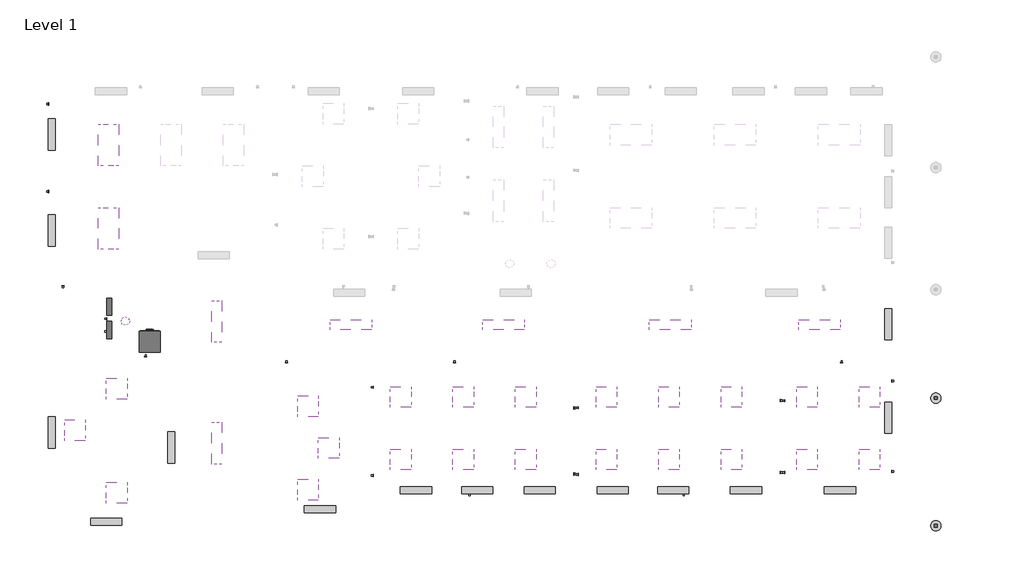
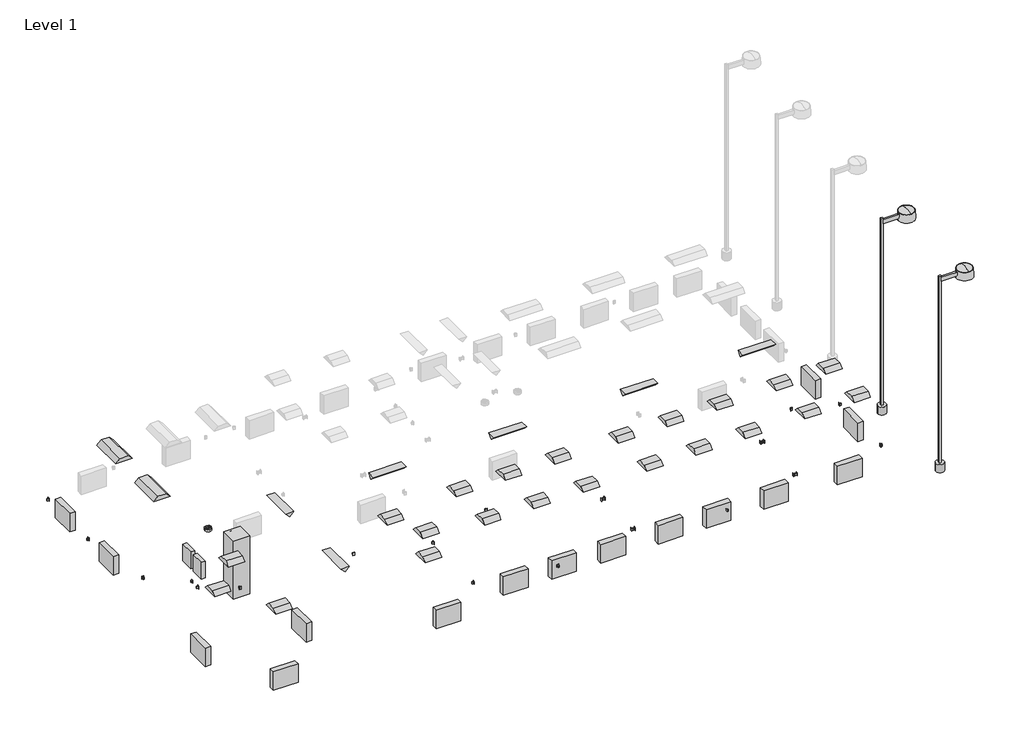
# One storey, part 1 of 2: 41 proxies, 33 light fixtures.
"""IFC4 building model written with IfcOpenShell, lengths in millimetres."""

from ifc_helpers import new_model, si_unit, origin, place, context, project, spatial, transform, mapped, element, save
from components import duplex_receptacle_standard_10251bba, heater_standard_f97a0de0, lighting_and_appliance_panelboard_480v_mlo_125_a_3907a416, proxy_f2fcea41, ceiling_light_flat_round_60w_277v_a3c1fe64, plain_recessed_lighting_fixture_1x4_277_73690371, plain_recessed_lighting_fixture_2x2_277_2107ce2d, plain_recessed_lighting_fixture_2x4_277_d3d5fc87, street_light_standard_400w_halogen_277v_63d2c179

model = new_model("IFC4")

# Units and contexts
model_context = context("Model", 3, world=origin())
ifc_project = project(units=[si_unit("LENGTHUNIT", "METRE", prefix="MILLI")], contexts=[model_context])

# Site, building, storey
site = spatial("IfcSite", under=ifc_project)
building = spatial("IfcBuilding", under=site)
storey = spatial("IfcBuildingStorey", under=building, Name="Level 1", Elevation=0.0)

# Proxies
placement = place(None, origin())
duplex_receptacle_standard_shape = duplex_receptacle_standard_10251bba(model_context)
element("IfcBuildingElementProxy", 1, Name="Duplex Receptacle : Standard", ObjectType="Duplex Receptacle : Standard", at=placement, inside=storey, context=model_context, shape_type="MappedRepresentation", body=[
    mapped(duplex_receptacle_standard_shape, transform((-11896.9375423, 539.3362982, 457.2), x_axis=(-1.0, 0.0, 0.0), y_axis=(0.0, 0.0, 1.0), z_axis=(0.0, 1.0, 0.0))),
])
element("IfcBuildingElementProxy", 2, Name="Duplex Receptacle : Standard", ObjectType="Duplex Receptacle : Standard", at=placement, inside=storey, context=model_context, shape_type="MappedRepresentation", body=[
    mapped(duplex_receptacle_standard_shape, transform((-12326.8965226, 3293.728876, 457.2), x_axis=(0.0, 1.0, 0.0), y_axis=(0.0, 0.0, 1.0), z_axis=(1.0, 0.0, 0.0))),
])
element("IfcBuildingElementProxy", 3, Name="Duplex Receptacle : Standard", ObjectType="Duplex Receptacle : Standard", at=placement, inside=storey, context=model_context, shape_type="MappedRepresentation", body=[
    mapped(duplex_receptacle_standard_shape, transform((-12326.8965226, 5855.4034771, 457.2), x_axis=(0.0, 1.0, 0.0), y_axis=(0.0, 0.0, 1.0), z_axis=(1.0, 0.0, 0.0))),
])
element("IfcBuildingElementProxy", 4, Name="Duplex Receptacle : Standard", ObjectType="Duplex Receptacle : Standard", at=placement, inside=storey, context=model_context, shape_type="MappedRepresentation", body=[
    mapped(duplex_receptacle_standard_shape, transform((10884.0330798, -1710.3119449, 457.2), x_axis=(1.0, 0.0, 0.0), y_axis=(0.0, 0.0, 1.0), z_axis=(0.0, -1.0, 0.0))),
])
element("IfcBuildingElementProxy", 5, Name="Duplex Receptacle : Standard", ObjectType="Duplex Receptacle : Standard", at=placement, inside=storey, context=model_context, shape_type="MappedRepresentation", body=[
    mapped(duplex_receptacle_standard_shape, transform((12355.5534774, -2243.543179, 457.2), x_axis=(0.0, -1.0, 0.0), y_axis=(0.0, 0.0, 1.0), z_axis=(-1.0, 0.0, 0.0))),
])
element("IfcBuildingElementProxy", 6, Name="Duplex Receptacle : Standard", ObjectType="Duplex Receptacle : Standard", at=placement, inside=storey, context=model_context, shape_type="MappedRepresentation", body=[
    mapped(duplex_receptacle_standard_shape, transform((12355.5534774, -4891.4298793, 457.2), x_axis=(0.0, -1.0, 0.0), y_axis=(0.0, 0.0, 1.0), z_axis=(-1.0, 0.0, 0.0))),
])
element("IfcBuildingElementProxy", 7, Name="Duplex Receptacle : Standard", ObjectType="Duplex Receptacle : Standard", at=placement, inside=storey, context=model_context, shape_type="MappedRepresentation", body=[
    mapped(duplex_receptacle_standard_shape, transform((9215.7608002, -4927.7853031, 457.2), x_axis=(0.0, 1.0, 0.0), y_axis=(0.0, 0.0, 1.0), z_axis=(1.0, 0.0, 0.0))),
])
element("IfcBuildingElementProxy", 8, Name="Duplex Receptacle : Standard", ObjectType="Duplex Receptacle : Standard", at=placement, inside=storey, context=model_context, shape_type="MappedRepresentation", body=[
    mapped(duplex_receptacle_standard_shape, transform((9215.7608002, -2825.2299599, 457.2), x_axis=(0.0, 1.0, 0.0), y_axis=(0.0, 0.0, 1.0), z_axis=(1.0, 0.0, 0.0))),
])
element("IfcBuildingElementProxy", 9, Name="Duplex Receptacle : Standard", ObjectType="Duplex Receptacle : Standard", at=placement, inside=storey, context=model_context, shape_type="MappedRepresentation", body=[
    mapped(duplex_receptacle_standard_shape, transform((9091.9358002, -2822.2003412, 457.2), x_axis=(0.0, -1.0, 0.0), y_axis=(0.0, 0.0, 1.0), z_axis=(-1.0, 0.0, 0.0))),
])
element("IfcBuildingElementProxy", 10, Name="Duplex Receptacle : Standard", ObjectType="Duplex Receptacle : Standard", at=placement, inside=storey, context=model_context, shape_type="MappedRepresentation", body=[
    mapped(duplex_receptacle_standard_shape, transform((9091.9358002, -4926.5734556, 457.2), x_axis=(0.0, -1.0, 0.0), y_axis=(0.0, 0.0, 1.0), z_axis=(-1.0, 0.0, 0.0))),
])
element("IfcBuildingElementProxy", 11, Name="Duplex Receptacle : Standard", ObjectType="Duplex Receptacle : Standard", at=placement, inside=storey, context=model_context, shape_type="MappedRepresentation", body=[
    mapped(duplex_receptacle_standard_shape, transform((6264.7735239, -5550.1332548, 457.2), x_axis=(-1.0, 0.0, 0.0), y_axis=(0.0, 0.0, 1.0), z_axis=(0.0, 1.0, 0.0))),
])
element("IfcBuildingElementProxy", 12, Name="Duplex Receptacle : Standard", ObjectType="Duplex Receptacle : Standard", at=placement, inside=storey, context=model_context, shape_type="MappedRepresentation", body=[
    mapped(duplex_receptacle_standard_shape, transform((3178.7791807, -4982.3184388, 457.2), x_axis=(0.0, 1.0, 0.0), y_axis=(0.0, 0.0, 1.0), z_axis=(1.0, 0.0, 0.0))),
])
element("IfcBuildingElementProxy", 13, Name="Duplex Receptacle : Standard", ObjectType="Duplex Receptacle : Standard", at=placement, inside=storey, context=model_context, shape_type="MappedRepresentation", body=[
    mapped(duplex_receptacle_standard_shape, transform((3178.7791807, -3031.2440281, 457.2), x_axis=(0.0, 1.0, 0.0), y_axis=(0.0, 0.0, 1.0), z_axis=(1.0, 0.0, 0.0))),
])
element("IfcBuildingElementProxy", 14, Name="Duplex Receptacle : Standard", ObjectType="Duplex Receptacle : Standard", at=placement, inside=storey, context=model_context, shape_type="MappedRepresentation", body=[
    mapped(duplex_receptacle_standard_shape, transform((3054.9541807, -3040.6605751, 457.2), x_axis=(0.0, -1.0, 0.0), y_axis=(0.0, 0.0, 1.0), z_axis=(-1.0, 0.0, 0.0))),
])
element("IfcBuildingElementProxy", 15, Name="Duplex Receptacle : Standard", ObjectType="Duplex Receptacle : Standard", at=placement, inside=storey, context=model_context, shape_type="MappedRepresentation", body=[
    mapped(duplex_receptacle_standard_shape, transform((3054.9541807, -4971.8758356, 457.2), x_axis=(0.0, -1.0, 0.0), y_axis=(0.0, 0.0, 1.0), z_axis=(-1.0, 0.0, 0.0))),
])
element("IfcBuildingElementProxy", 16, Name="Duplex Receptacle : Standard", ObjectType="Duplex Receptacle : Standard", at=placement, inside=storey, context=model_context, shape_type="MappedRepresentation", body=[
    mapped(duplex_receptacle_standard_shape, transform((-2819.2064516, -5011.9425422, 457.2), x_axis=(0.0, 1.0, 0.0), y_axis=(0.0, 0.0, 1.0), z_axis=(1.0, 0.0, 0.0))),
])
element("IfcBuildingElementProxy", 17, Name="Duplex Receptacle : Standard", ObjectType="Duplex Receptacle : Standard", at=placement, inside=storey, context=model_context, shape_type="MappedRepresentation", body=[
    mapped(duplex_receptacle_standard_shape, transform((-2819.2064516, -2431.6466341, 457.2), x_axis=(0.0, 1.0, 0.0), y_axis=(0.0, 0.0, 1.0), z_axis=(1.0, 0.0, 0.0))),
])
element("IfcBuildingElementProxy", 18, Name="Duplex Receptacle : Standard", ObjectType="Duplex Receptacle : Standard", at=placement, inside=storey, context=model_context, shape_type="MappedRepresentation", body=[
    mapped(duplex_receptacle_standard_shape, transform((-443.3364786, -1710.3119449, 457.2), x_axis=(1.0, 0.0, 0.0), y_axis=(0.0, 0.0, 1.0), z_axis=(0.0, -1.0, 0.0))),
])
element("IfcBuildingElementProxy", 19, Name="Duplex Receptacle : Standard", ObjectType="Duplex Receptacle : Standard", at=placement, inside=storey, context=model_context, shape_type="MappedRepresentation", body=[
    mapped(duplex_receptacle_standard_shape, transform((-2.6027055, -5550.1332548, 457.2), x_axis=(-1.0, 0.0, 0.0), y_axis=(0.0, 0.0, 1.0), z_axis=(0.0, 1.0, 0.0))),
])
element("IfcBuildingElementProxy", 20, Name="Duplex Receptacle : Standard", ObjectType="Duplex Receptacle : Standard", at=placement, inside=storey, context=model_context, shape_type="MappedRepresentation", body=[
    mapped(duplex_receptacle_standard_shape, transform((-5361.484653, -1710.3119449, 457.2), x_axis=(1.0, 0.0, 0.0), y_axis=(0.0, 0.0, 1.0), z_axis=(0.0, -1.0, 0.0))),
])
element("IfcBuildingElementProxy", 21, Name="Duplex Receptacle : Standard", ObjectType="Duplex Receptacle : Standard", at=placement, inside=storey, context=model_context, shape_type="MappedRepresentation", body=[
    mapped(duplex_receptacle_standard_shape, transform((-9480.7427635, -1530.7127622, 457.2), x_axis=(1.0, 0.0, 0.0), y_axis=(0.0, 0.0, 1.0), z_axis=(0.0, -1.0, 0.0))),
])
element("IfcBuildingElementProxy", 22, Name="Duplex Receptacle : Standard", ObjectType="Duplex Receptacle : Standard", at=placement, inside=storey, context=model_context, shape_type="MappedRepresentation", body=[
    mapped(duplex_receptacle_standard_shape, transform((-10618.9849987, -802.683715, 457.2), x_axis=(0.0, 1.0, 0.0), y_axis=(0.0, 0.0, 1.0), z_axis=(1.0, 0.0, 0.0))),
])
element("IfcBuildingElementProxy", 23, Name="Duplex Receptacle : Standard", ObjectType="Duplex Receptacle : Standard", at=placement, inside=storey, context=model_context, shape_type="MappedRepresentation", body=[
    mapped(duplex_receptacle_standard_shape, transform((-10618.9849987, -428.1176265, 457.2), x_axis=(0.0, 1.0, 0.0), y_axis=(0.0, 0.0, 1.0), z_axis=(1.0, 0.0, 0.0))),
])
heater_standard_shape = heater_standard_f97a0de0(model_context)
element("IfcBuildingElementProxy", 24, Name="Heater : Standard", ObjectType="Heater : Standard", at=placement, inside=storey, context=model_context, shape_type="MappedRepresentation", body=[
    mapped(heater_standard_shape, transform((-12326.8965226, 4962.2917452, 0.0), x_axis=(0.0, 1.0, 0.0), y_axis=(-1.0, 0.0, 0.0), z_axis=(0.0, 0.0, 1.0))),
])
element("IfcBuildingElementProxy", 25, Name="Heater : Standard", ObjectType="Heater : Standard", at=placement, inside=storey, context=model_context, shape_type="MappedRepresentation", body=[
    mapped(heater_standard_shape, transform((-12326.8965226, 2153.8237982, 0.0), x_axis=(0.0, 1.0, 0.0), y_axis=(-1.0, 0.0, 0.0), z_axis=(0.0, 0.0, 1.0))),
])
element("IfcBuildingElementProxy", 26, Name="Heater : Standard", ObjectType="Heater : Standard", at=placement, inside=storey, context=model_context, shape_type="MappedRepresentation", body=[
    mapped(heater_standard_shape, transform((-12326.8965226, -3754.8002622, 0.0), x_axis=(0.0, 1.0, 0.0), y_axis=(-1.0, 0.0, 0.0), z_axis=(0.0, 0.0, 1.0))),
])
element("IfcBuildingElementProxy", 27, Name="Heater : Standard", ObjectType="Heater : Standard", at=placement, inside=storey, context=model_context, shape_type="MappedRepresentation", body=[
    mapped(heater_standard_shape, transform((-10634.0662487, -6464.5332548, 0.0), x_axis=(-1.0, 0.0, 0.0), y_axis=(0.0, -1.0, 0.0), z_axis=(0.0, 0.0, 1.0))),
])
element("IfcBuildingElementProxy", 28, Name="Heater : Standard", ObjectType="Heater : Standard", at=placement, inside=storey, context=model_context, shape_type="MappedRepresentation", body=[
    mapped(heater_standard_shape, transform((-4378.3378487, -6101.1762018, 0.0), x_axis=(-1.0, 0.0, 0.0), y_axis=(0.0, -1.0, 0.0), z_axis=(0.0, 0.0, 1.0))),
])
element("IfcBuildingElementProxy", 29, Name="Heater : Standard", ObjectType="Heater : Standard", at=placement, inside=storey, context=model_context, shape_type="MappedRepresentation", body=[
    mapped(heater_standard_shape, transform((-1568.2564516, -5550.1332548, 0.0), x_axis=(-1.0, 0.0, 0.0), y_axis=(0.0, -1.0, 0.0), z_axis=(0.0, 0.0, 1.0))),
])
element("IfcBuildingElementProxy", 30, Name="Heater : Standard", ObjectType="Heater : Standard", at=placement, inside=storey, context=model_context, shape_type="MappedRepresentation", body=[
    mapped(heater_standard_shape, transform((221.2666807, -5550.1332548, 0.0), x_axis=(-1.0, 0.0, 0.0), y_axis=(0.0, -1.0, 0.0), z_axis=(0.0, 0.0, 1.0))),
])
element("IfcBuildingElementProxy", 31, Name="Heater : Standard", ObjectType="Heater : Standard", at=placement, inside=storey, context=model_context, shape_type="MappedRepresentation", body=[
    mapped(heater_standard_shape, transform((2050.0666807, -5550.1332548, 0.0), x_axis=(-1.0, 0.0, 0.0), y_axis=(0.0, -1.0, 0.0), z_axis=(0.0, 0.0, 1.0))),
])
element("IfcBuildingElementProxy", 32, Name="Heater : Standard", ObjectType="Heater : Standard", at=placement, inside=storey, context=model_context, shape_type="MappedRepresentation", body=[
    mapped(heater_standard_shape, transform((12355.5534774, -585.4878233, 0.0), x_axis=(0.0, -1.0, 0.0), y_axis=(1.0, 0.0, 0.0), z_axis=(0.0, 0.0, 1.0))),
])
element("IfcBuildingElementProxy", 33, Name="Heater : Standard", ObjectType="Heater : Standard", at=placement, inside=storey, context=model_context, shape_type="MappedRepresentation", body=[
    mapped(heater_standard_shape, transform((12355.5534774, -3324.7994449, 0.0), x_axis=(0.0, -1.0, 0.0), y_axis=(1.0, 0.0, 0.0), z_axis=(0.0, 0.0, 1.0))),
])
element("IfcBuildingElementProxy", 34, Name="Heater : Standard", ObjectType="Heater : Standard", at=placement, inside=storey, context=model_context, shape_type="MappedRepresentation", body=[
    mapped(heater_standard_shape, transform((10832.4883888, -5550.1332548, 0.0), x_axis=(-1.0, 0.0, 0.0), y_axis=(0.0, -1.0, 0.0), z_axis=(0.0, 0.0, 1.0))),
])
element("IfcBuildingElementProxy", 35, Name="Heater : Standard", ObjectType="Heater : Standard", at=placement, inside=storey, context=model_context, shape_type="MappedRepresentation", body=[
    mapped(heater_standard_shape, transform((8087.0483002, -5550.1332548, 0.0), x_axis=(-1.0, 0.0, 0.0), y_axis=(0.0, -1.0, 0.0), z_axis=(0.0, 0.0, 1.0))),
])
element("IfcBuildingElementProxy", 36, Name="Heater : Standard", ObjectType="Heater : Standard", at=placement, inside=storey, context=model_context, shape_type="MappedRepresentation", body=[
    mapped(heater_standard_shape, transform((5953.4483002, -5550.1332548, 0.0), x_axis=(-1.0, 0.0, 0.0), y_axis=(0.0, -1.0, 0.0), z_axis=(0.0, 0.0, 1.0))),
])
element("IfcBuildingElementProxy", 37, Name="Heater : Standard", ObjectType="Heater : Standard", at=placement, inside=storey, context=model_context, shape_type="MappedRepresentation", body=[
    mapped(heater_standard_shape, transform((4183.6666807, -5550.1332548, 0.0), x_axis=(-1.0, 0.0, 0.0), y_axis=(0.0, -1.0, 0.0), z_axis=(0.0, 0.0, 1.0))),
])
element("IfcBuildingElementProxy", 38, Name="Heater : Standard", ObjectType="Heater : Standard", at=placement, inside=storey, context=model_context, shape_type="MappedRepresentation", body=[
    mapped(heater_standard_shape, transform((-8833.2859749, -4195.2566655, 0.0), x_axis=(0.0, 1.0, 0.0), y_axis=(-1.0, 0.0, 0.0), z_axis=(0.0, 0.0, 1.0))),
])
lighting_and_appliance_panelboard_480v_mlo_125_a_shape = lighting_and_appliance_panelboard_480v_mlo_125_a_3907a416(model_context)
element("IfcBuildingElementProxy", 39, Name="Lighting and Appliance Panelboard - 480V MLO : 125 A", ObjectType="Lighting and Appliance Panelboard - 480V MLO : 125 A", at=placement, inside=storey, context=model_context, shape_type="MappedRepresentation", body=[
    mapped(lighting_and_appliance_panelboard_480v_mlo_125_a_shape, transform((-10618.9849987, -757.7653071, 1593.0725953), x_axis=(0.0, 1.0, 0.0), y_axis=(0.0, 0.0, -1.0), z_axis=(-1.0, 0.0, 0.0))),
])
element("IfcBuildingElementProxy", 40, Name="Lighting and Appliance Panelboard - 480V MLO : 125 A", ObjectType="Lighting and Appliance Panelboard - 480V MLO : 125 A", at=placement, inside=storey, context=model_context, shape_type="MappedRepresentation", body=[
    mapped(lighting_and_appliance_panelboard_480v_mlo_125_a_shape, transform((-10618.9849987, -75.0184884, 1593.0725953), x_axis=(0.0, 1.0, 0.0), y_axis=(0.0, 0.0, -1.0), z_axis=(-1.0, 0.0, 0.0))),
])
proxy_shape = proxy_f2fcea41(model_context)
element("IfcBuildingElementProxy", 41, Name="Metering Switchboard : 24\"x26.25\"", ObjectType="Metering Switchboard : 24\"x26.25\"", at=placement, inside=storey, context=model_context, shape_type="MappedRepresentation", body=[
    mapped(proxy_shape, transform((-9356.388949, -1404.6099297, 0.0), x_axis=(-1.0, 0.0, 0.0), y_axis=(0.0, -1.0, 0.0), z_axis=(0.0, 0.0, 1.0))),
])

# Light fixtures
ceiling_light_flat_round_60w_277v_shape = ceiling_light_flat_round_60w_277v_a3c1fe64(model_context)
element("IfcLightFixture", 42, ObjectType="Ceiling Light - Flat Round : 60W - 277V", at=placement, inside=storey, context=model_context, shape_type="MappedRepresentation", body=[
    mapped(ceiling_light_flat_round_60w_277v_shape, transform((-10072.8185222, -495.688232, 2438.4), x_axis=(1.0, 0.0, 0.0), y_axis=(0.0, -1.0, 0.0), z_axis=(0.0, 0.0, -1.0))),
])
plain_recessed_lighting_fixture_1x4_277_shape = plain_recessed_lighting_fixture_1x4_277_73690371(model_context)
element("IfcLightFixture", 43, ObjectType="Plain Recessed Lighting Fixture : 1x4 - 277", at=placement, inside=storey, context=model_context, shape_type="MappedRepresentation", body=[
    mapped(plain_recessed_lighting_fixture_1x4_277_shape, transform((-4086.8396974, -448.5225822, 2438.4), x_axis=(1.0, 0.0, 0.0), y_axis=(0.0, 1.0, 0.0), z_axis=(0.0, 0.0, 1.0))),
])
element("IfcLightFixture", 44, ObjectType="Plain Recessed Lighting Fixture : 1x4 - 277", at=placement, inside=storey, context=model_context, shape_type="MappedRepresentation", body=[
    mapped(plain_recessed_lighting_fixture_1x4_277_shape, transform((383.5603026, -448.5225822, 2438.4), x_axis=(1.0, 0.0, 0.0), y_axis=(0.0, 1.0, 0.0), z_axis=(0.0, 0.0, 1.0))),
])
element("IfcLightFixture", 45, ObjectType="Plain Recessed Lighting Fixture : 1x4 - 277", at=placement, inside=storey, context=model_context, shape_type="MappedRepresentation", body=[
    mapped(plain_recessed_lighting_fixture_1x4_277_shape, transform((5260.3603026, -448.5225822, 2438.4), x_axis=(1.0, 0.0, 0.0), y_axis=(0.0, 1.0, 0.0), z_axis=(0.0, 0.0, 1.0))),
])
element("IfcLightFixture", 46, ObjectType="Plain Recessed Lighting Fixture : 1x4 - 277", at=placement, inside=storey, context=model_context, shape_type="MappedRepresentation", body=[
    mapped(plain_recessed_lighting_fixture_1x4_277_shape, transform((9629.1603026, -448.5225822, 2438.4), x_axis=(1.0, 0.0, 0.0), y_axis=(0.0, 1.0, 0.0), z_axis=(0.0, 0.0, 1.0))),
])
element("IfcLightFixture", 47, ObjectType="Plain Recessed Lighting Fixture : 1x4 - 277", at=placement, inside=storey, context=model_context, shape_type="MappedRepresentation", body=[
    mapped(plain_recessed_lighting_fixture_1x4_277_shape, transform((-7553.1170415, -1121.3482269, 2438.4), x_axis=(0.0, 1.0, 0.0), y_axis=(-1.0, 0.0, 0.0), z_axis=(0.0, 0.0, 1.0))),
])
element("IfcLightFixture", 48, ObjectType="Plain Recessed Lighting Fixture : 1x4 - 277", at=placement, inside=storey, context=model_context, shape_type="MappedRepresentation", body=[
    mapped(plain_recessed_lighting_fixture_1x4_277_shape, transform((-7553.1170415, -4680.447715, 2438.4), x_axis=(0.0, 1.0, 0.0), y_axis=(-1.0, 0.0, 0.0), z_axis=(0.0, 0.0, 1.0))),
])
plain_recessed_lighting_fixture_2x2_277_shape = plain_recessed_lighting_fixture_2x2_277_2107ce2d(model_context)
element("IfcLightFixture", 49, ObjectType="Plain Recessed Lighting Fixture : 2x2 - 277", at=placement, inside=storey, context=model_context, shape_type="MappedRepresentation", body=[
    mapped(plain_recessed_lighting_fixture_2x2_277_shape, transform((-2320.5261355, -3020.6225998, 2438.4), x_axis=(1.0, 0.0, 0.0), y_axis=(0.0, -1.0, 0.0), z_axis=(0.0, 0.0, -1.0))),
])
element("IfcLightFixture", 50, ObjectType="Plain Recessed Lighting Fixture : 2x2 - 277", at=placement, inside=storey, context=model_context, shape_type="MappedRepresentation", body=[
    mapped(plain_recessed_lighting_fixture_2x2_277_shape, transform((-2320.5261355, -4849.4225998, 2438.4), x_axis=(1.0, 0.0, 0.0), y_axis=(0.0, -1.0, 0.0), z_axis=(0.0, 0.0, -1.0))),
])
element("IfcLightFixture", 51, ObjectType="Plain Recessed Lighting Fixture : 2x2 - 277", at=placement, inside=storey, context=model_context, shape_type="MappedRepresentation", body=[
    mapped(plain_recessed_lighting_fixture_2x2_277_shape, transform((-491.7261355, -3020.6225998, 2438.4), x_axis=(1.0, 0.0, 0.0), y_axis=(0.0, -1.0, 0.0), z_axis=(0.0, 0.0, -1.0))),
])
element("IfcLightFixture", 52, ObjectType="Plain Recessed Lighting Fixture : 2x2 - 277", at=placement, inside=storey, context=model_context, shape_type="MappedRepresentation", body=[
    mapped(plain_recessed_lighting_fixture_2x2_277_shape, transform((-491.7261355, -4849.4225998, 2438.4), x_axis=(1.0, 0.0, 0.0), y_axis=(0.0, -1.0, 0.0), z_axis=(0.0, 0.0, -1.0))),
])
element("IfcLightFixture", 53, ObjectType="Plain Recessed Lighting Fixture : 2x2 - 277", at=placement, inside=storey, context=model_context, shape_type="MappedRepresentation", body=[
    mapped(plain_recessed_lighting_fixture_2x2_277_shape, transform((1337.0738645, -3020.6225998, 2438.4), x_axis=(1.0, 0.0, 0.0), y_axis=(0.0, -1.0, 0.0), z_axis=(0.0, 0.0, -1.0))),
])
element("IfcLightFixture", 54, ObjectType="Plain Recessed Lighting Fixture : 2x2 - 277", at=placement, inside=storey, context=model_context, shape_type="MappedRepresentation", body=[
    mapped(plain_recessed_lighting_fixture_2x2_277_shape, transform((1337.0738645, -4849.4225998, 2438.4), x_axis=(1.0, 0.0, 0.0), y_axis=(0.0, -1.0, 0.0), z_axis=(0.0, 0.0, -1.0))),
])
element("IfcLightFixture", 55, ObjectType="Plain Recessed Lighting Fixture : 2x2 - 277", at=placement, inside=storey, context=model_context, shape_type="MappedRepresentation", body=[
    mapped(plain_recessed_lighting_fixture_2x2_277_shape, transform((3696.9574904, -3020.6225998, 2438.4), x_axis=(1.0, 0.0, 0.0), y_axis=(0.0, -1.0, 0.0), z_axis=(0.0, 0.0, -1.0))),
])
element("IfcLightFixture", 56, ObjectType="Plain Recessed Lighting Fixture : 2x2 - 277", at=placement, inside=storey, context=model_context, shape_type="MappedRepresentation", body=[
    mapped(plain_recessed_lighting_fixture_2x2_277_shape, transform((3696.9574904, -4849.4225998, 2438.4), x_axis=(1.0, 0.0, 0.0), y_axis=(0.0, -1.0, 0.0), z_axis=(0.0, 0.0, -1.0))),
])
element("IfcLightFixture", 57, ObjectType="Plain Recessed Lighting Fixture : 2x2 - 277", at=placement, inside=storey, context=model_context, shape_type="MappedRepresentation", body=[
    mapped(plain_recessed_lighting_fixture_2x2_277_shape, transform((5525.7574904, -3020.6225998, 2438.4), x_axis=(1.0, 0.0, 0.0), y_axis=(0.0, -1.0, 0.0), z_axis=(0.0, 0.0, -1.0))),
])
element("IfcLightFixture", 58, ObjectType="Plain Recessed Lighting Fixture : 2x2 - 277", at=placement, inside=storey, context=model_context, shape_type="MappedRepresentation", body=[
    mapped(plain_recessed_lighting_fixture_2x2_277_shape, transform((5525.7574904, -4849.4225998, 2438.4), x_axis=(1.0, 0.0, 0.0), y_axis=(0.0, -1.0, 0.0), z_axis=(0.0, 0.0, -1.0))),
])
element("IfcLightFixture", 59, ObjectType="Plain Recessed Lighting Fixture : 2x2 - 277", at=placement, inside=storey, context=model_context, shape_type="MappedRepresentation", body=[
    mapped(plain_recessed_lighting_fixture_2x2_277_shape, transform((7354.5574904, -3020.6225998, 2438.4), x_axis=(1.0, 0.0, 0.0), y_axis=(0.0, -1.0, 0.0), z_axis=(0.0, 0.0, -1.0))),
])
element("IfcLightFixture", 60, ObjectType="Plain Recessed Lighting Fixture : 2x2 - 277", at=placement, inside=storey, context=model_context, shape_type="MappedRepresentation", body=[
    mapped(plain_recessed_lighting_fixture_2x2_277_shape, transform((7354.5574904, -4849.4225998, 2438.4), x_axis=(1.0, 0.0, 0.0), y_axis=(0.0, -1.0, 0.0), z_axis=(0.0, 0.0, -1.0))),
])
element("IfcLightFixture", 61, ObjectType="Plain Recessed Lighting Fixture : 2x2 - 277", at=placement, inside=storey, context=model_context, shape_type="MappedRepresentation", body=[
    mapped(plain_recessed_lighting_fixture_2x2_277_shape, transform((9566.4571388, -3020.6225998, 2438.4), x_axis=(1.0, 0.0, 0.0), y_axis=(0.0, -1.0, 0.0), z_axis=(0.0, 0.0, -1.0))),
])
element("IfcLightFixture", 62, ObjectType="Plain Recessed Lighting Fixture : 2x2 - 277", at=placement, inside=storey, context=model_context, shape_type="MappedRepresentation", body=[
    mapped(plain_recessed_lighting_fixture_2x2_277_shape, transform((11395.2571388, -3020.6225998, 2438.4), x_axis=(1.0, 0.0, 0.0), y_axis=(0.0, -1.0, 0.0), z_axis=(0.0, 0.0, -1.0))),
])
element("IfcLightFixture", 63, ObjectType="Plain Recessed Lighting Fixture : 2x2 - 277", at=placement, inside=storey, context=model_context, shape_type="MappedRepresentation", body=[
    mapped(plain_recessed_lighting_fixture_2x2_277_shape, transform((9566.4571388, -4849.4225998, 2438.4), x_axis=(1.0, 0.0, 0.0), y_axis=(0.0, -1.0, 0.0), z_axis=(0.0, 0.0, -1.0))),
])
element("IfcLightFixture", 64, ObjectType="Plain Recessed Lighting Fixture : 2x2 - 277", at=placement, inside=storey, context=model_context, shape_type="MappedRepresentation", body=[
    mapped(plain_recessed_lighting_fixture_2x2_277_shape, transform((11395.2571388, -4849.4225998, 2438.4), x_axis=(1.0, 0.0, 0.0), y_axis=(0.0, -1.0, 0.0), z_axis=(0.0, 0.0, -1.0))),
])
element("IfcLightFixture", 65, ObjectType="Plain Recessed Lighting Fixture : 2x2 - 277", at=placement, inside=storey, context=model_context, shape_type="MappedRepresentation", body=[
    mapped(plain_recessed_lighting_fixture_2x2_277_shape, transform((-10634.0662487, -2778.4230085, 2438.4), x_axis=(1.0, 0.0, 0.0), y_axis=(0.0, -1.0, 0.0), z_axis=(0.0, 0.0, -1.0))),
])
element("IfcLightFixture", 66, ObjectType="Plain Recessed Lighting Fixture : 2x2 - 277", at=placement, inside=storey, context=model_context, shape_type="MappedRepresentation", body=[
    mapped(plain_recessed_lighting_fixture_2x2_277_shape, transform((-11853.2662487, -3997.6230085, 2438.4), x_axis=(1.0, 0.0, 0.0), y_axis=(0.0, -1.0, 0.0), z_axis=(0.0, 0.0, -1.0))),
])
element("IfcLightFixture", 67, ObjectType="Plain Recessed Lighting Fixture : 2x2 - 277", at=placement, inside=storey, context=model_context, shape_type="MappedRepresentation", body=[
    mapped(plain_recessed_lighting_fixture_2x2_277_shape, transform((-10634.0662487, -5826.4230085, 2438.4), x_axis=(1.0, 0.0, 0.0), y_axis=(0.0, -1.0, 0.0), z_axis=(0.0, 0.0, -1.0))),
])
element("IfcLightFixture", 68, ObjectType="Plain Recessed Lighting Fixture : 2x2 - 277", at=placement, inside=storey, context=model_context, shape_type="MappedRepresentation", body=[
    mapped(plain_recessed_lighting_fixture_2x2_277_shape, transform((-5034.7690987, -3296.1440733, 2438.4), x_axis=(1.0, 0.0, 0.0), y_axis=(0.0, -1.0, 0.0), z_axis=(0.0, 0.0, -1.0))),
])
element("IfcLightFixture", 69, ObjectType="Plain Recessed Lighting Fixture : 2x2 - 277", at=placement, inside=storey, context=model_context, shape_type="MappedRepresentation", body=[
    mapped(plain_recessed_lighting_fixture_2x2_277_shape, transform((-4425.1690987, -4515.3440733, 2438.4), x_axis=(1.0, 0.0, 0.0), y_axis=(0.0, -1.0, 0.0), z_axis=(0.0, 0.0, -1.0))),
])
element("IfcLightFixture", 70, ObjectType="Plain Recessed Lighting Fixture : 2x2 - 277", at=placement, inside=storey, context=model_context, shape_type="MappedRepresentation", body=[
    mapped(plain_recessed_lighting_fixture_2x2_277_shape, transform((-5034.7690987, -5734.5440733, 2438.4), x_axis=(1.0, 0.0, 0.0), y_axis=(0.0, -1.0, 0.0), z_axis=(0.0, 0.0, -1.0))),
])
plain_recessed_lighting_fixture_2x4_277_shape = plain_recessed_lighting_fixture_2x4_277_d3d5fc87(model_context)
element("IfcLightFixture", 71, ObjectType="Plain Recessed Lighting Fixture : 2x4 - 277", at=placement, inside=storey, context=model_context, shape_type="MappedRepresentation", body=[
    mapped(plain_recessed_lighting_fixture_2x4_277_shape, transform((-10873.1147471, 5263.8265217, 2438.4), x_axis=(0.0, -1.0, 0.0), y_axis=(-1.0, 0.0, 0.0), z_axis=(0.0, 0.0, -1.0))),
])
element("IfcLightFixture", 72, ObjectType="Plain Recessed Lighting Fixture : 2x4 - 277", at=placement, inside=storey, context=model_context, shape_type="MappedRepresentation", body=[
    mapped(plain_recessed_lighting_fixture_2x4_277_shape, transform((-10873.1147471, 2825.4265217, 2438.4), x_axis=(0.0, -1.0, 0.0), y_axis=(-1.0, 0.0, 0.0), z_axis=(0.0, 0.0, -1.0))),
])
street_light_standard_400w_halogen_277v_shape = street_light_standard_400w_halogen_277v_63d2c179(model_context)
element("IfcLightFixture", 73, ObjectType="Street Light - Standard : 400W Halogen - 277V", at=placement, inside=storey, context=model_context, shape_type="MappedRepresentation", body=[
    mapped(street_light_standard_400w_halogen_277v_shape, transform((13638.4206878, -6482.4996817, 0.0), x_axis=(-1.0, 0.0, 0.0), y_axis=(0.0, -1.0, 0.0), z_axis=(0.0, 0.0, 1.0))),
])
element("IfcLightFixture", 74, ObjectType="Street Light - Standard : 400W Halogen - 277V", at=placement, inside=storey, context=model_context, shape_type="MappedRepresentation", body=[
    mapped(street_light_standard_400w_halogen_277v_shape, transform((13638.4206878, -2748.4447591, 0.0), x_axis=(-1.0, 0.0, 0.0), y_axis=(0.0, -1.0, 0.0), z_axis=(0.0, 0.0, 1.0))),
])

save(model, "model.ifc")
